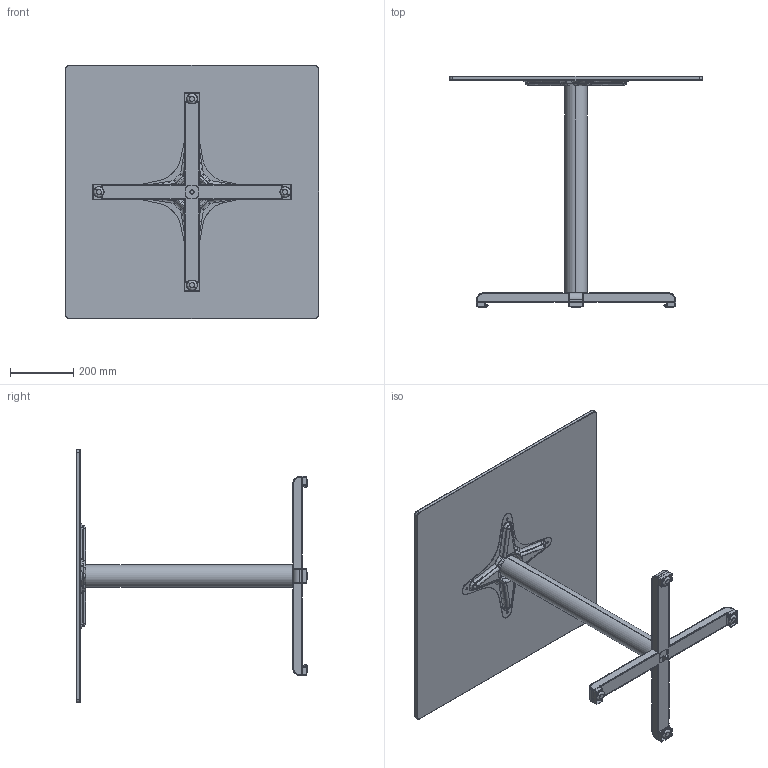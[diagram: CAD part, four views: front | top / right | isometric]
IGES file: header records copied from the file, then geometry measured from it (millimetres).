
Start section: SolidWorks IGES file using analytic representation for surfaces
Global section: file name: C:\Users\Ýbrahim Mert\Desktop\SW çizimler\3D Enjeksiyon Ürünler\masalar\800x800.IGS; native system: SolidWorks 2011; preprocessor: SolidWorks 2011; author: Ýbrahim Mert; date: 150303.000732; units: millimetre
Bounding box: 800 x 731 x 800 mm (x, y, z)
Surface area: 2108944.2 mm2 (no closed solid volume)
Topology: 0 solids, 0 shells, 480 faces, 5898 edges, 5898 vertices
Faces by surface type: bspline 263, revolution 217
